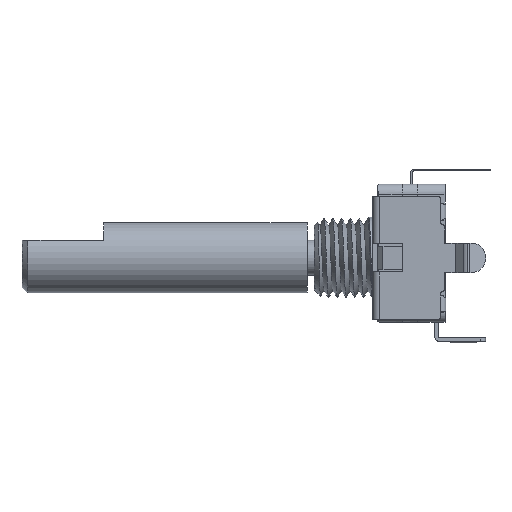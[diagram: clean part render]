
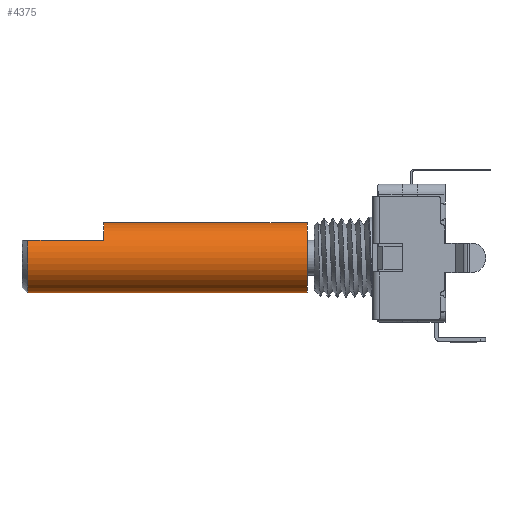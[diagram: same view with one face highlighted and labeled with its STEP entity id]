
A CAD part, left-side view. The second image highlights one B-rep face of the part: STEP entity #4375.
In plain terms, the highlighted cylindrical face has radius 3 mm (diameter 6 mm), a partial arc.
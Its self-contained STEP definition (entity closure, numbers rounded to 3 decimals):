
#69 = ORIENTED_EDGE ( 'NONE', *, *, #21443, .T. ) ;
#1043 = CARTESIAN_POINT ( 'NONE',  ( 0., -24.4, 0. ) ) ;
#1229 = CARTESIAN_POINT ( 'NONE',  ( 0., -0.5, -3. ) ) ;
#1509 = DIRECTION ( 'NONE',  ( 0., 1., 0. ) ) ;
#2899 = CARTESIAN_POINT ( 'NONE',  ( 0., -24.4, 0. ) ) ;
#3191 = AXIS2_PLACEMENT_3D ( 'NONE', #31495, #9444, #19260 ) ;
#3624 = CARTESIAN_POINT ( 'NONE',  ( -2.598, -24.4, 1.5 ) ) ;
#3947 = EDGE_LOOP ( 'NONE', ( #9381, #24902, #18646, #69, #11108, #9185 ) ) ;
#4027 = AXIS2_PLACEMENT_3D ( 'NONE', #1043, #10864, #20690 ) ;
#4375 = ADVANCED_FACE ( 'NONE', ( #15133 ), #24934, .T. ) ;
#4418 = VERTEX_POINT ( 'NONE', #8497 ) ;
#5005 = VERTEX_POINT ( 'NONE', #6979 ) ;
#6763 = CIRCLE ( 'NONE', #24722, 3. ) ;
#6979 = CARTESIAN_POINT ( 'NONE',  ( 0., -7., 3. ) ) ;
#8141 = EDGE_CURVE ( 'NONE', #4418, #9663, #17900, .T. ) ;
#8301 = DIRECTION ( 'NONE',  ( 0., 1., 0. ) ) ;
#8497 = CARTESIAN_POINT ( 'NONE',  ( 0., -24.4, -3. ) ) ;
#9185 = ORIENTED_EDGE ( 'NONE', *, *, #13991, .T. ) ;
#9381 = ORIENTED_EDGE ( 'NONE', *, *, #9402, .F. ) ;
#9402 = EDGE_CURVE ( 'NONE', #4418, #16730, #20519, .T. ) ;
#9432 = DIRECTION ( 'NONE',  ( 0., 0., 1. ) ) ;
#9444 = DIRECTION ( 'NONE',  ( 0., -1., 0. ) ) ;
#9663 = VERTEX_POINT ( 'NONE', #11866 ) ;
#10864 = DIRECTION ( 'NONE',  ( 0., 1., 0. ) ) ;
#11108 = ORIENTED_EDGE ( 'NONE', *, *, #18101, .F. ) ;
#11866 = CARTESIAN_POINT ( 'NONE',  ( 0., -24.4, 3. ) ) ;
#12721 = DIRECTION ( 'NONE',  ( 0., 1., 0. ) ) ;
#13453 = DIRECTION ( 'NONE',  ( 0., -1., 0. ) ) ;
#13740 = LINE ( 'NONE', #23547, #23273 ) ;
#13991 = EDGE_CURVE ( 'NONE', #18776, #16730, #6763, .T. ) ;
#15133 = FACE_OUTER_BOUND ( 'NONE', #3947, .T. ) ;
#15359 = CARTESIAN_POINT ( 'NONE',  ( -2.598, -7., 1.5 ) ) ;
#16730 = VERTEX_POINT ( 'NONE', #1229 ) ;
#17059 = CIRCLE ( 'NONE', #3191, 3. ) ;
#17900 = CIRCLE ( 'NONE', #4027, 3. ) ;
#18101 = EDGE_CURVE ( 'NONE', #18776, #27867, #25663, .T. ) ;
#18646 = ORIENTED_EDGE ( 'NONE', *, *, #22133, .T. ) ;
#18776 = VERTEX_POINT ( 'NONE', #22982 ) ;
#19260 = DIRECTION ( 'NONE',  ( 0., 0., 1. ) ) ;
#20519 = LINE ( 'NONE', #30326, #29484 ) ;
#20690 = DIRECTION ( 'NONE',  ( 0., 0., 1. ) ) ;
#21443 = EDGE_CURVE ( 'NONE', #5005, #27867, #17059, .T. ) ;
#21558 = VECTOR ( 'NONE', #13453, 1000. ) ;
#21676 = CARTESIAN_POINT ( 'NONE',  ( 0., -0.5, 0. ) ) ;
#22133 = EDGE_CURVE ( 'NONE', #9663, #5005, #13740, .T. ) ;
#22531 = DIRECTION ( 'NONE',  ( 0., 0., 1. ) ) ;
#22982 = CARTESIAN_POINT ( 'NONE',  ( -2.598, -0.5, 1.5 ) ) ;
#23273 = VECTOR ( 'NONE', #1509, 1000. ) ;
#23547 = CARTESIAN_POINT ( 'NONE',  ( 0., -24.4, 3. ) ) ;
#24722 = AXIS2_PLACEMENT_3D ( 'NONE', #21676, #31480, #9432 ) ;
#24902 = ORIENTED_EDGE ( 'NONE', *, *, #8141, .T. ) ;
#24934 = CYLINDRICAL_SURFACE ( 'NONE', #27852, 3. ) ;
#25663 = LINE ( 'NONE', #3624, #21558 ) ;
#27852 = AXIS2_PLACEMENT_3D ( 'NONE', #2899, #12721, #22531 ) ;
#27867 = VERTEX_POINT ( 'NONE', #15359 ) ;
#29484 = VECTOR ( 'NONE', #8301, 1000. ) ;
#30326 = CARTESIAN_POINT ( 'NONE',  ( 0., -24.4, -3. ) ) ;
#31480 = DIRECTION ( 'NONE',  ( 0., -1., 0. ) ) ;
#31495 = CARTESIAN_POINT ( 'NONE',  ( 0., -7., 0. ) ) ;
